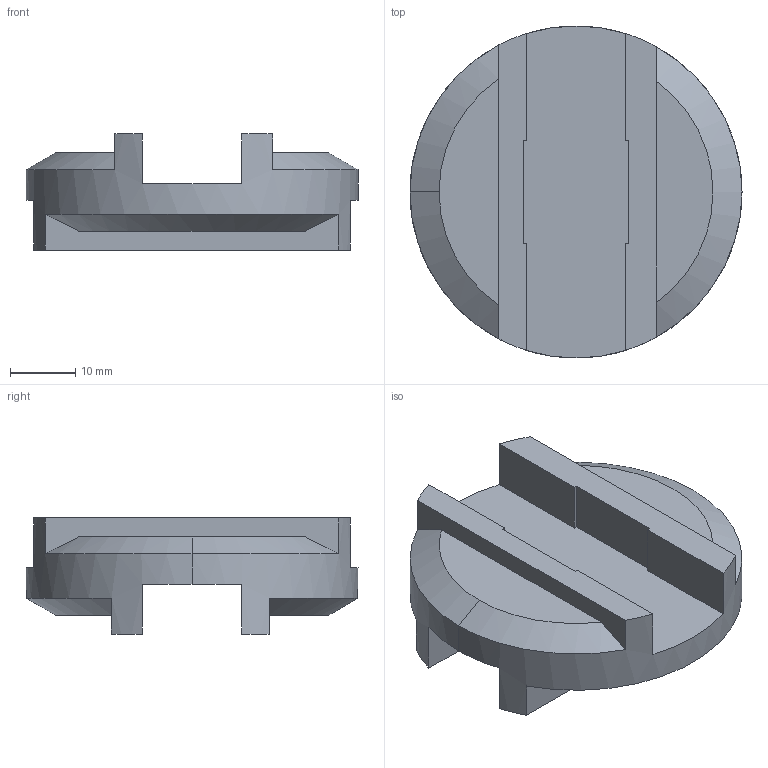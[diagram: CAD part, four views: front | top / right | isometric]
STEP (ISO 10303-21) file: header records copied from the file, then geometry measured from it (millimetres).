
FILE_DESCRIPTION((''),'2;1');
FILE_NAME('OD32-51','2016-09-09T',('SYSTEM'),(''),'PRO/ENGINEER BY PARAMETRIC TECHNOLOGY CORPORATION, 2015110','PRO/ENGINEER BY PARAMETRIC TECHNOLOGY CORPORATION, 2015110','');
FILE_SCHEMA(('AUTOMOTIVE_DESIGN { 1 0 10303 214 1 1 1 1 }'));
Length unit declared in the file: inch
Products named in the file (1): OD32-51
Bounding box: 50.8 x 50.8 x 17.78 mm (x, y, z)
Volume: 18138 mm3; surface area: 7434.3 mm2
Topology: 1 solids, 1 shells, 41 faces, 117 edges, 78 vertices
Faces by surface type: plane 34, cone 5, cylinder 2
Entity records: 1705 total; most frequent: CARTESIAN_POINT 272, ORIENTED_EDGE 234, DIRECTION 217, EDGE_CURVE 117, VECTOR 83, LINE 83, VERTEX_POINT 78, AXIS2_PLACEMENT_3D 67
